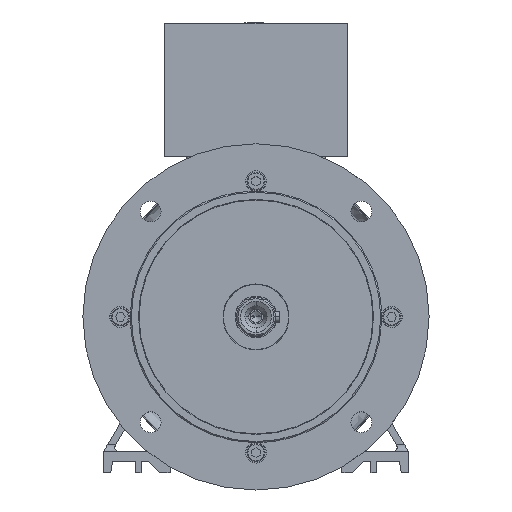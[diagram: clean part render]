
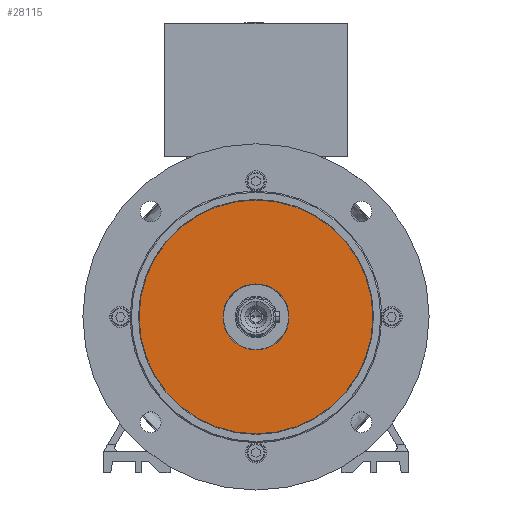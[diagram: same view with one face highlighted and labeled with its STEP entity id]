
A CAD part, top view. The second image highlights one B-rep face of the part: STEP entity #28115.
In plain terms, the highlighted planar face has unit normal (0, 0, 1).
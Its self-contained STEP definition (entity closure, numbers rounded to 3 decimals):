
#159 = DIRECTION ( 'NONE',  ( 0., 0., -1. ) ) ;
#3078 = EDGE_LOOP ( 'NONE', ( #30362, #5370 ) ) ;
#5370 = ORIENTED_EDGE ( 'NONE', *, *, #25315, .T. ) ;
#6331 = EDGE_CURVE ( 'NONE', #18735, #43628, #21486, .T. ) ;
#7879 = AXIS2_PLACEMENT_3D ( 'NONE', #33720, #20661, #28096 ) ;
#8229 = CARTESIAN_POINT ( 'NONE',  ( 0., 0., 139. ) ) ;
#9182 = AXIS2_PLACEMENT_3D ( 'NONE', #36764, #44023, #9632 ) ;
#9197 = FACE_BOUND ( 'NONE', #13982, .T. ) ;
#9632 = DIRECTION ( 'NONE',  ( 1., 0., 0. ) ) ;
#10276 = AXIS2_PLACEMENT_3D ( 'NONE', #18014, #42208, #41914 ) ;
#10603 = DIRECTION ( 'NONE',  ( 1., 0., 0. ) ) ;
#13982 = EDGE_LOOP ( 'NONE', ( #15104, #43365 ) ) ;
#15104 = ORIENTED_EDGE ( 'NONE', *, *, #15933, .T. ) ;
#15933 = EDGE_CURVE ( 'NONE', #31770, #42975, #27533, .T. ) ;
#17663 = CARTESIAN_POINT ( 'NONE',  ( 0., 0., 139. ) ) ;
#17709 = PLANE ( 'NONE',  #10276 ) ;
#18014 = CARTESIAN_POINT ( 'NONE',  ( 0., 23.815, 139. ) ) ;
#18275 = DIRECTION ( 'NONE',  ( 0., 0., 1. ) ) ;
#18708 = CIRCLE ( 'NONE', #7879, 84.388 ) ;
#18735 = VERTEX_POINT ( 'NONE', #31857 ) ;
#20661 = DIRECTION ( 'NONE',  ( 0., 0., 1. ) ) ;
#21190 = CIRCLE ( 'NONE', #23166, 23.815 ) ;
#21486 = CIRCLE ( 'NONE', #27632, 84.388 ) ;
#23166 = AXIS2_PLACEMENT_3D ( 'NONE', #17663, #159, #10603 ) ;
#25315 = EDGE_CURVE ( 'NONE', #43628, #18735, #18708, .T. ) ;
#26334 = CARTESIAN_POINT ( 'NONE',  ( -23.815, 0., 139. ) ) ;
#27533 = CIRCLE ( 'NONE', #9182, 23.815 ) ;
#27632 = AXIS2_PLACEMENT_3D ( 'NONE', #8229, #18275, #39251 ) ;
#28096 = DIRECTION ( 'NONE',  ( 1., 0., 0. ) ) ;
#28115 = ADVANCED_FACE ( 'NONE', ( #9197, #35597 ), #17709, .T. ) ;
#30362 = ORIENTED_EDGE ( 'NONE', *, *, #6331, .T. ) ;
#31047 = EDGE_CURVE ( 'NONE', #42975, #31770, #21190, .T. ) ;
#31770 = VERTEX_POINT ( 'NONE', #43579 ) ;
#31857 = CARTESIAN_POINT ( 'NONE',  ( 84.388, 0., 139. ) ) ;
#33720 = CARTESIAN_POINT ( 'NONE',  ( 0., 0., 139. ) ) ;
#35597 = FACE_OUTER_BOUND ( 'NONE', #3078, .T. ) ;
#36764 = CARTESIAN_POINT ( 'NONE',  ( 0., 0., 139. ) ) ;
#37717 = CARTESIAN_POINT ( 'NONE',  ( -84.388, 0., 139. ) ) ;
#39251 = DIRECTION ( 'NONE',  ( 1., 0., 0. ) ) ;
#41914 = DIRECTION ( 'NONE',  ( 1., 0., 0. ) ) ;
#42208 = DIRECTION ( 'NONE',  ( 0., 0., 1. ) ) ;
#42975 = VERTEX_POINT ( 'NONE', #26334 ) ;
#43365 = ORIENTED_EDGE ( 'NONE', *, *, #31047, .T. ) ;
#43579 = CARTESIAN_POINT ( 'NONE',  ( 23.815, 0., 139. ) ) ;
#43628 = VERTEX_POINT ( 'NONE', #37717 ) ;
#44023 = DIRECTION ( 'NONE',  ( 0., 0., -1. ) ) ;
